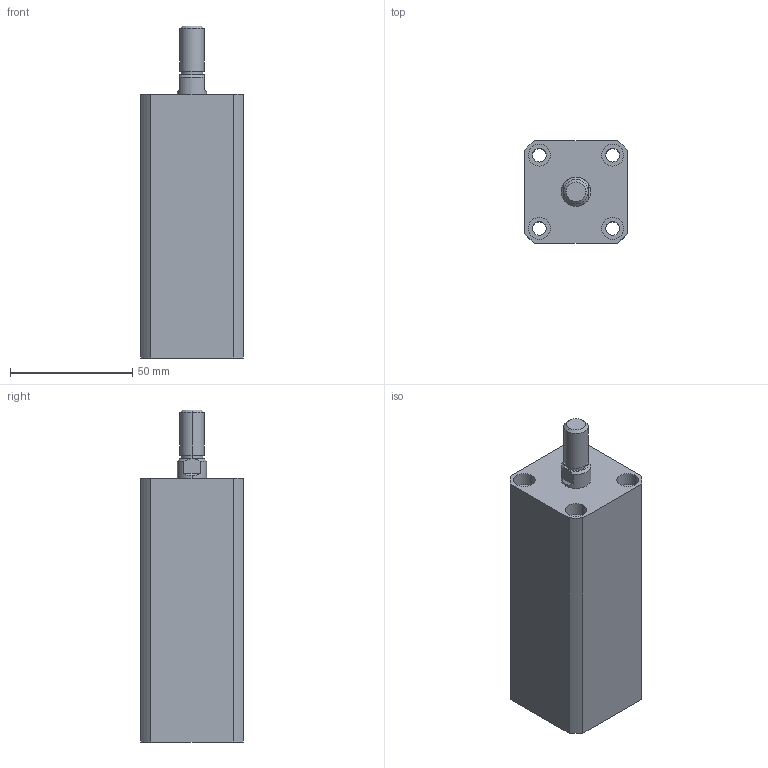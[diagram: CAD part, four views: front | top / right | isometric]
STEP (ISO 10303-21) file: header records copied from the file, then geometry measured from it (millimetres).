
FILE_DESCRIPTION (( 'STEP AP203' ), '1' );
FILE_NAME ('HTB-SDMB20-65W.STEP', '2019-10-09T00:07:03', ( '微软用户' ), ( '微软中国' ), 'SwSTEP 2.0', 'SolidWorks 2012', '' );
FILE_SCHEMA (( 'CONFIG_CONTROL_DESIGN' ));
Length unit declared in the file: millimetre
Products named in the file (3): HTB-SDMB20-65W活塞杆; HTB-SDMB20-65掛极; HTB-SDMB20-65W
Assembly tree (2 placements, depth 2):
  HTB-SDMB20-65W
    HTB-SDMB20-65掛极
    HTB-SDMB20-65W活塞杆
Bounding box: 42 x 42 x 136 mm (x, y, z)
Volume: 163936.5 mm3; surface area: 40504.3 mm2
Topology: 2 solids, 2 shells, 140 faces, 332 edges, 218 vertices
Faces by surface type: plane 66, cylinder 48, bspline 16, torus 6, cone 4
Entity records: 5129 total; most frequent: CARTESIAN_POINT 1587, ORIENTED_EDGE 664, DIRECTION 662, EDGE_CURVE 332, AXIS2_PLACEMENT_3D 241, VERTEX_POINT 218, LINE 180, VECTOR 180
